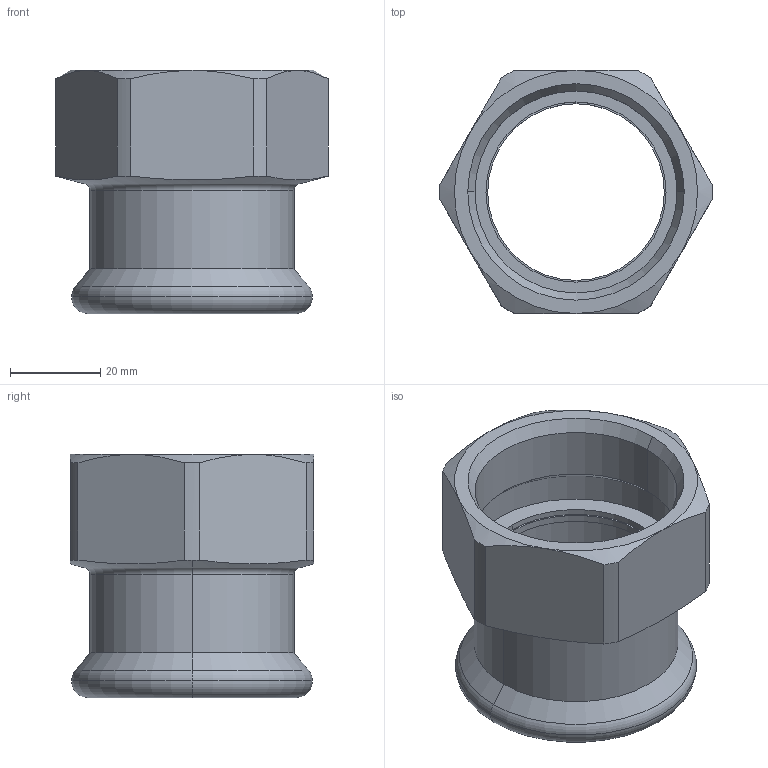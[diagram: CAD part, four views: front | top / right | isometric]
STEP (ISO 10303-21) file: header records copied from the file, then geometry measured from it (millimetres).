
FILE_DESCRIPTION(('CoCreate Modeling STEP Export'),'2;1');
FILE_NAME('C1402 42xRp1 1-2.stp','2014-11-07T14:00:50',(''),(''),'CoCreate Modeling STEP processor for AP214 (Solid Model)','CoCreate Modeling 17.00A 17-Jun-2010 (C) Parametric Technology GmbH','');
FILE_SCHEMA(('AUTOMOTIVE_DESIGN { 1 0 10303 214 1 1 1 1 }'));
Length unit declared in the file: millimetre
Products named in the file (1): C1402_42xRp3-2
Bounding box: 60.5 x 54 x 54 mm (x, y, z)
Volume: 31778.9 mm3; surface area: 19555.1 mm2
Topology: 1 solids, 1 shells, 59 faces, 136 edges, 82 vertices
Faces by surface type: cylinder 24, cone 18, plane 11, torus 6
Entity records: 2244 total; most frequent: CARTESIAN_POINT 1080, ORIENTED_EDGE 272, DIRECTION 184, EDGE_CURVE 136, VERTEX_POINT 82, AXIS2_PLACEMENT_3D 71, EDGE_LOOP 64, FACE_OUTER_BOUND 59
